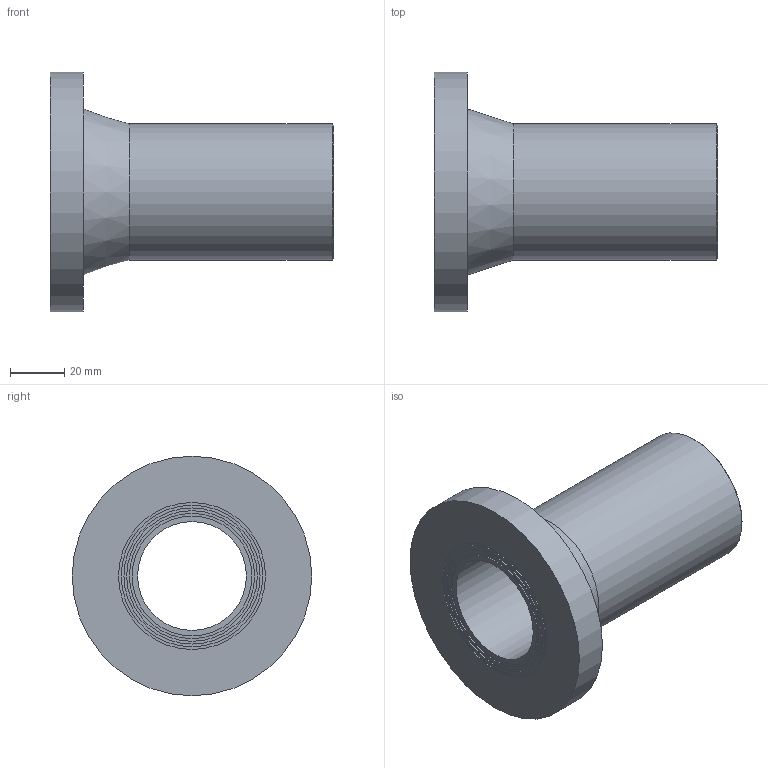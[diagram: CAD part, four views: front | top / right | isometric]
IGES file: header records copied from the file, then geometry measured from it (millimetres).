
Global section: file name: 490207050.ipt; native system: Autodesk Inventor 2015; preprocessor: unknown; author: Кирилл,,11,0; organization: 20170718.095537; date: 20190331.185814; units: millimetre
Bounding box: 104 x 88 x 88 mm (x, y, z)
Volume: 130568.4 mm3; surface area: 40390.4 mm2
Topology: 1 solids, 1 shells, 20 faces, 33 edges, 22 vertices
Faces by surface type: plane 9, cylinder 5, revolution 4, cone 2
Full cylindrical faces by diameter (mm): 44 x1, 48 x1, 50 x1, 52 x1, 88 x1
